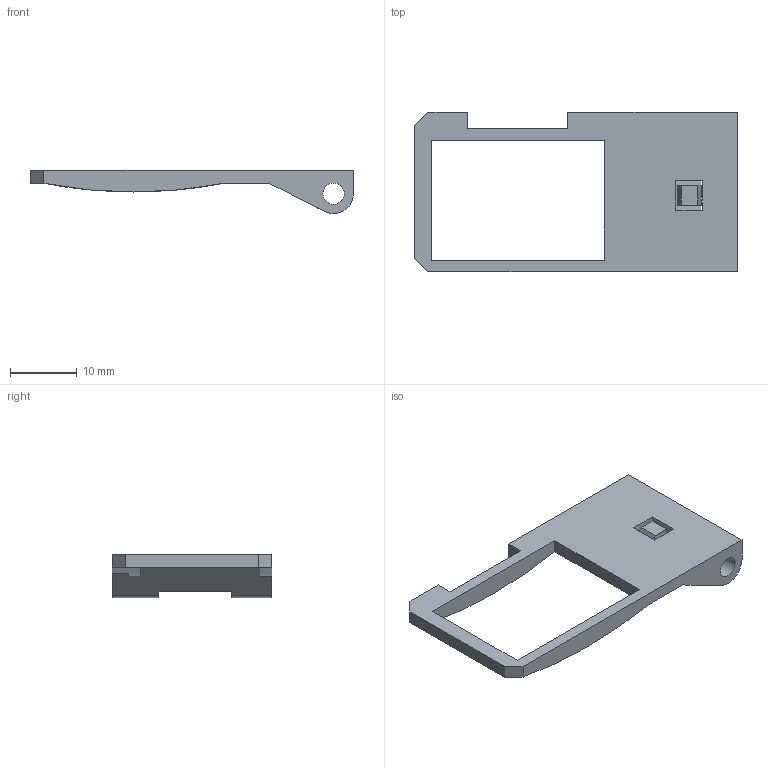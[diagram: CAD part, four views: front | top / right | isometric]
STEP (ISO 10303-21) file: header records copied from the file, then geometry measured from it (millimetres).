
FILE_DESCRIPTION(('FreeCAD Model'),'2;1');
FILE_NAME('Open CASCADE Shape Model','2026-07-02T18:48:16',('FreeCAD'),( 'FreeCAD'),'Open CASCADE STEP processor 7.8','FreeCAD','Unknown');
FILE_SCHEMA(('AUTOMOTIVE_DESIGN { 1 0 10303 214 1 1 1 1 }'));
Length unit declared in the file: millimetre
Products named in the file (1): Open CASCADE STEP translator 7.8 19
Bounding box: 48.5 x 24 x 6.5 mm (x, y, z)
Volume: 1843.1 mm3; surface area: 2281 mm2
Topology: 1 solids, 1 shells, 39 faces, 114 edges, 76 vertices
Faces by surface type: plane 30, cylinder 9
Full cylindrical faces by diameter (mm): 3.2 x2
Entity records: 1320 total; most frequent: CARTESIAN_POINT 230, ORIENTED_EDGE 228, DIRECTION 220, EDGE_CURVE 114, LINE 88, VECTOR 88, VERTEX_POINT 76, AXIS2_PLACEMENT_3D 66
